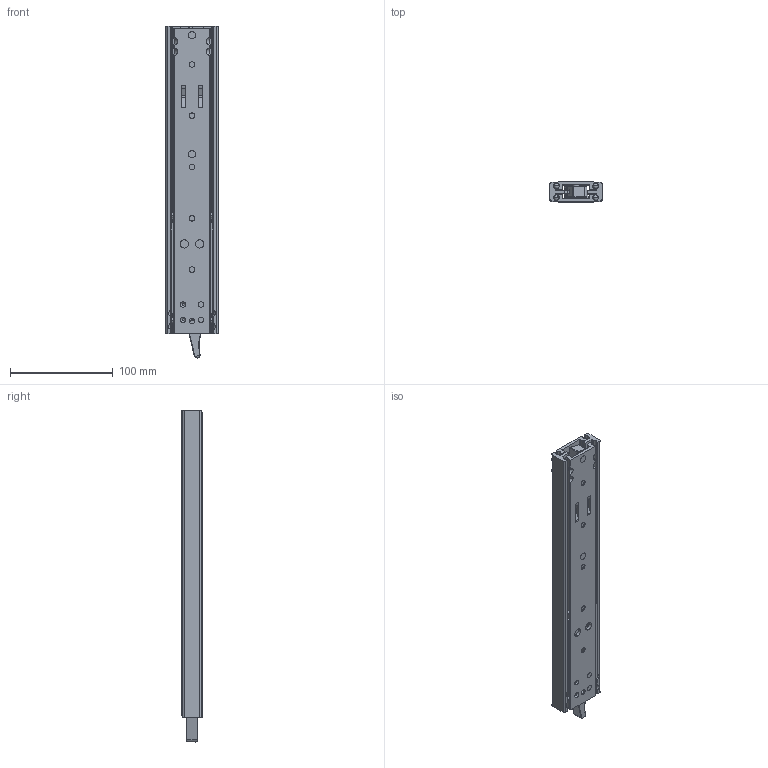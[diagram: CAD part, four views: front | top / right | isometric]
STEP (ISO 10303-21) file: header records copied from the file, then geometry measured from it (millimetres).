
FILE_DESCRIPTION (( 'STEP AP214' ), '1' );
FILE_NAME ('230-300-closed.STEP', '2024-08-20T11:30:39', ( '' ), ( '' ), 'SwSTEP 2.0', 'SolidWorks 2024', '' );
FILE_SCHEMA (( 'AUTOMOTIVE_DESIGN' ));
Length unit declared in the file: millimetre
Products named in the file (12): 61_12282_14.STEP_Part162; 400_000_004_14.STEP_Part168; 61_12285_02_closed.STEP_Assem29; 61_12275.STEP_Part164; 61_12280_02_Beam Assembled - Stop Raises _2.STEP_Part160; 61_12279_02_2.STEP_Part159; 61_12274_14.STEP_Part165; 301_000_008_Fitted_14.STEP_Part163; 370_002_070_14.STEP_Part166; 230-300-closed; 61_12278_02_2.STEP_Part169; 61_13331_Pin Fitted_14.STEP_Part161
Assembly tree (27 placements, depth 3):
  230-300-closed
    61_12285_02_closed.STEP_Assem29
      61_12279_02_2.STEP_Part159
      61_12280_02_Beam Assembled - Stop Raises _2.STEP_Part160  x2
      61_13331_Pin Fitted_14.STEP_Part161  x4
      61_12282_14.STEP_Part162
      301_000_008_Fitted_14.STEP_Part163  x2
      61_12275.STEP_Part164
      61_12274_14.STEP_Part165
      370_002_070_14.STEP_Part166  x2
      400_000_004_14.STEP_Part168  x8
      61_12278_02_2.STEP_Part169  x4
Bounding box: 50.7 x 19.75 x 323.69 mm (x, y, z)
Volume: 173583 mm3; surface area: 121233.7 mm2
Topology: 26 solids, 26 shells, 1128 faces, 2913 edges, 1799 vertices
Faces by surface type: cylinder 508, plane 265, sphere 161, torus 77, cone 72, bspline 45
Entity records: 27278 total; most frequent: CARTESIAN_POINT 8526, DIRECTION 4004, ORIENTED_EDGE 3822, EDGE_CURVE 1911, AXIS2_PLACEMENT_3D 1586, VERTEX_POINT 1178, CIRCLE 850, EDGE_LOOP 843
